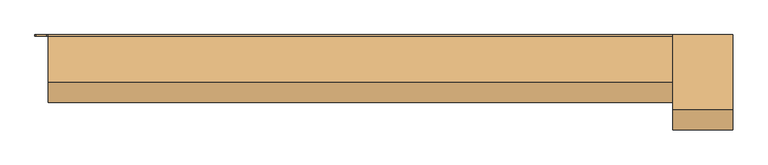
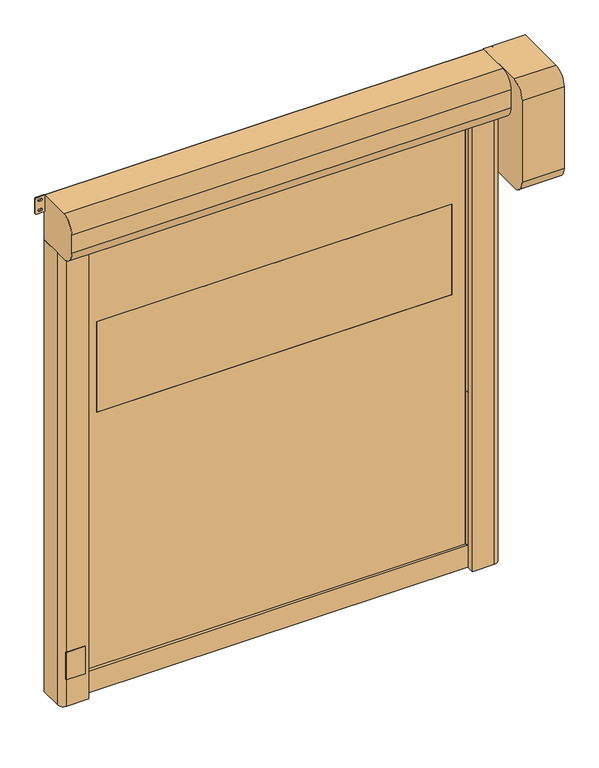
"""IFC4 building model written with IfcOpenShell, lengths in millimetres: door geometry, DO_WPB_Dynamicroll_BMP : Dynamicroll MS150."""

from ifc_helpers import new_model, si_unit, point, frame, frame_2d, origin, origin_with_axes, place, context, project, spatial, polyline, circle_curve, trimmed, segment, composite_curve, outline, extrude, source, transform, mapped, element, save


def door_8e53db6a(model_context):
    return source(origin(), model_context, "Body", "SweptSolid", [
        extrude(outline(composite_curve([segment(trimmed(circle_curve(frame_2d((1616.6666667, 1041.0)), 6.0), [point((1622.6666667, 1041.0))], [point((1610.6666667, 1041.0))], False, "CARTESIAN"), True, "CONTINUOUS"), segment(polyline([(1610.6666667, 1041.0), (1610.6666667, 1059.0)]), True, "CONTINUOUS"), segment(trimmed(circle_curve(frame_2d((1616.6666667, 1059.0)), 6.0), [point((1610.6666667, 1059.0))], [point((1622.6666667, 1059.0))], False, "CARTESIAN"), True, "CONTINUOUS"), segment(polyline([(1622.6666667, 1059.0), (1622.6666667, 1041.0)]), True, "CONTINUOUS")], self_intersect=False)), frame((0.0, -20.0, 0.0), z_axis=(0.0, 1.0, 0.0), x_axis=(0.0, 0.0, 1.0)), (0.0, 0.0, 1.0), 20.0),
        extrude(outline(composite_curve([segment(trimmed(circle_curve(frame_2d((883.3333333, 1041.0)), 6.0), [point((889.3333333, 1041.0))], [point((877.3333333, 1041.0))], False, "CARTESIAN"), True, "CONTINUOUS"), segment(polyline([(877.3333333, 1041.0), (877.3333333, 1059.0)]), True, "CONTINUOUS"), segment(trimmed(circle_curve(frame_2d((883.3333333, 1059.0)), 6.0), [point((877.3333333, 1059.0))], [point((889.3333333, 1059.0))], False, "CARTESIAN"), True, "CONTINUOUS"), segment(polyline([(889.3333333, 1059.0), (889.3333333, 1041.0)]), True, "CONTINUOUS")], self_intersect=False)), frame((0.0, -20.0, 0.0), z_axis=(0.0, 1.0, 0.0), x_axis=(0.0, 0.0, 1.0)), (0.0, 0.0, 1.0), 20.0),
        extrude(outline(composite_curve([segment(trimmed(circle_curve(frame_2d((2350.0, 1041.0)), 6.0), [point((2356.0, 1041.0))], [point((2344.0, 1041.0))], False, "CARTESIAN"), True, "CONTINUOUS"), segment(polyline([(2344.0, 1041.0), (2344.0, 1059.0)]), True, "CONTINUOUS"), segment(trimmed(circle_curve(frame_2d((2350.0, 1059.0)), 6.0), [point((2344.0, 1059.0))], [point((2356.0, 1059.0))], False, "CARTESIAN"), True, "CONTINUOUS"), segment(polyline([(2356.0, 1059.0), (2356.0, 1041.0)]), True, "CONTINUOUS")], self_intersect=False)), frame((0.0, -20.0, 0.0), z_axis=(0.0, 1.0, 0.0), x_axis=(0.0, 0.0, 1.0)), (0.0, 0.0, 1.0), 20.0),
        extrude(outline(composite_curve([segment(trimmed(circle_curve(frame_2d((150.0, 1041.0)), 6.0), [point((156.0, 1041.0))], [point((144.0, 1041.0))], False, "CARTESIAN"), True, "CONTINUOUS"), segment(polyline([(144.0, 1041.0), (144.0, 1059.0)]), True, "CONTINUOUS"), segment(trimmed(circle_curve(frame_2d((150.0, 1059.0)), 6.0), [point((144.0, 1059.0))], [point((156.0, 1059.0))], False, "CARTESIAN"), True, "CONTINUOUS"), segment(polyline([(156.0, 1059.0), (156.0, 1041.0)]), True, "CONTINUOUS")], self_intersect=False)), frame((0.0, -20.0, 0.0), z_axis=(0.0, 1.0, 0.0), x_axis=(0.0, 0.0, 1.0)), (0.0, 0.0, 1.0), 20.0),
        extrude(outline(composite_curve([segment(polyline([(1622.6666667, -1041.0), (1622.6666667, -1059.0)]), True, "CONTINUOUS"), segment(trimmed(circle_curve(frame_2d((1616.6666667, -1059.0)), 6.0), [point((1622.6666667, -1059.0))], [point((1610.6666667, -1059.0))], False, "CARTESIAN"), True, "CONTINUOUS"), segment(polyline([(1610.6666667, -1059.0), (1610.6666667, -1041.0)]), True, "CONTINUOUS"), segment(trimmed(circle_curve(frame_2d((1616.6666667, -1041.0)), 6.0), [point((1610.6666667, -1041.0))], [point((1622.6666667, -1041.0))], False, "CARTESIAN"), True, "CONTINUOUS")], self_intersect=False)), frame((0.0, -20.0, 0.0), z_axis=(0.0, 1.0, 0.0), x_axis=(0.0, 0.0, 1.0)), (0.0, 0.0, 1.0), 20.0),
        extrude(outline(composite_curve([segment(polyline([(889.3333333, -1041.0), (889.3333333, -1059.0)]), True, "CONTINUOUS"), segment(trimmed(circle_curve(frame_2d((883.3333333, -1059.0)), 6.0), [point((889.3333333, -1059.0))], [point((877.3333333, -1059.0))], False, "CARTESIAN"), True, "CONTINUOUS"), segment(polyline([(877.3333333, -1059.0), (877.3333333, -1041.0)]), True, "CONTINUOUS"), segment(trimmed(circle_curve(frame_2d((883.3333333, -1041.0)), 6.0), [point((877.3333333, -1041.0))], [point((889.3333333, -1041.0))], False, "CARTESIAN"), True, "CONTINUOUS")], self_intersect=False)), frame((0.0, -20.0, 0.0), z_axis=(0.0, 1.0, 0.0), x_axis=(0.0, 0.0, 1.0)), (0.0, 0.0, 1.0), 20.0),
        extrude(outline(composite_curve([segment(polyline([(2356.0, -1041.0), (2356.0, -1059.0)]), True, "CONTINUOUS"), segment(trimmed(circle_curve(frame_2d((2350.0, -1059.0)), 6.0), [point((2356.0, -1059.0))], [point((2344.0, -1059.0))], False, "CARTESIAN"), True, "CONTINUOUS"), segment(polyline([(2344.0, -1059.0), (2344.0, -1041.0)]), True, "CONTINUOUS"), segment(trimmed(circle_curve(frame_2d((2350.0, -1041.0)), 6.0), [point((2344.0, -1041.0))], [point((2356.0, -1041.0))], False, "CARTESIAN"), True, "CONTINUOUS")], self_intersect=False)), frame((0.0, -20.0, 0.0), z_axis=(0.0, 1.0, 0.0), x_axis=(0.0, 0.0, 1.0)), (0.0, 0.0, 1.0), 20.0),
        extrude(outline(composite_curve([segment(polyline([(156.0, -1041.0), (156.0, -1059.0)]), True, "CONTINUOUS"), segment(trimmed(circle_curve(frame_2d((150.0, -1059.0)), 6.0), [point((156.0, -1059.0))], [point((144.0, -1059.0))], False, "CARTESIAN"), True, "CONTINUOUS"), segment(polyline([(144.0, -1059.0), (144.0, -1041.0)]), True, "CONTINUOUS"), segment(trimmed(circle_curve(frame_2d((150.0, -1041.0)), 6.0), [point((144.0, -1041.0))], [point((156.0, -1041.0))], False, "CARTESIAN"), True, "CONTINUOUS")], self_intersect=False)), frame((0.0, -20.0, 0.0), z_axis=(0.0, 1.0, 0.0), x_axis=(0.0, 0.0, 1.0)), (0.0, 0.0, 1.0), 20.0),
        extrude(outline(composite_curve([segment(trimmed(circle_curve(frame_2d((1526.0, 929.0)), 1.0), [point((1525.0, 929.0))], [point((1526.0, 930.0))], False, "CARTESIAN"), True, "CONTINUOUS"), segment(polyline([(1526.0, 930.0), (2024.0, 930.0)]), True, "CONTINUOUS"), segment(trimmed(circle_curve(frame_2d((2024.0, 929.0)), 1.0), [point((2024.0, 930.0))], [point((2025.0, 929.0))], False, "CARTESIAN"), True, "CONTINUOUS"), segment(polyline([(2025.0, 929.0), (2025.0, -929.0)]), True, "CONTINUOUS"), segment(trimmed(circle_curve(frame_2d((2024.0, -929.0)), 1.0), [point((2025.0, -929.0))], [point((2024.0, -930.0))], False, "CARTESIAN"), True, "CONTINUOUS"), segment(polyline([(2024.0, -930.0), (1526.0, -930.0)]), True, "CONTINUOUS"), segment(trimmed(circle_curve(frame_2d((1526.0, -929.0)), 1.0), [point((1526.0, -930.0))], [point((1525.0, -929.0))], False, "CARTESIAN"), True, "CONTINUOUS"), segment(polyline([(1525.0, -929.0), (1525.0, 929.0)]), True, "CONTINUOUS")], self_intersect=False)), frame((0.0, -93.5, 0.0), z_axis=(0.0, 1.0, 0.0), x_axis=(0.0, 0.0, 1.0)), (0.0, 0.0, 1.0), 7.0),
        extrude(outline(polyline([(120.0, -1012.0), (120.0, 1012.0), (2625.0, 1012.0), (2625.0, -1012.0), (120.0, -1012.0)]), holes=[composite_curve([segment(trimmed(circle_curve(frame_2d((1526.0, 929.0)), 1.0), [point((1526.0, 930.0))], [point((1525.0, 929.0))], True, "CARTESIAN"), True, "CONTINUOUS"), segment(polyline([(1525.0, 929.0), (1525.0, -929.0)]), True, "CONTINUOUS"), segment(trimmed(circle_curve(frame_2d((1526.0, -929.0)), 1.0), [point((1525.0, -929.0))], [point((1526.0, -930.0))], True, "CARTESIAN"), True, "CONTINUOUS"), segment(polyline([(1526.0, -930.0), (2024.0, -930.0)]), True, "CONTINUOUS"), segment(trimmed(circle_curve(frame_2d((2024.0, -929.0)), 1.0), [point((2024.0, -930.0))], [point((2025.0, -929.0))], True, "CARTESIAN"), True, "CONTINUOUS"), segment(polyline([(2025.0, -929.0), (2025.0, 929.0)]), True, "CONTINUOUS"), segment(trimmed(circle_curve(frame_2d((2024.0, 929.0)), 1.0), [point((2025.0, 929.0))], [point((2024.0, 930.0))], True, "CARTESIAN"), True, "CONTINUOUS"), segment(polyline([(2024.0, 930.0), (1526.0, 930.0)]), True, "CONTINUOUS")], self_intersect=False)]), frame((0.0, -93.5, 0.0), z_axis=(0.0, 1.0, 0.0), x_axis=(0.0, 0.0, 1.0)), (0.0, 0.0, 1.0), 7.0),
        extrude(outline(polyline([(-1012.0, -72.0), (1012.0, -72.0), (1012.0, -108.0), (-1012.0, -108.0), (-1012.0, -72.0)])), origin_with_axes(), (0.0, 0.0, 1.0), 120.0),
        extrude(outline(composite_curve([segment(polyline([(0.0, 2750.0), (0.0, 2150.0), (-275.0, 2150.0)]), True, "CONTINUOUS"), segment(trimmed(circle_curve(frame_2d((-275.0, 2225.0)), 75.0), [point((-275.0, 2150.0))], [point((-350.0, 2225.0))], False, "CARTESIAN"), True, "CONTINUOUS"), segment(polyline([(-350.0, 2225.0), (-350.0, 2675.0)]), True, "CONTINUOUS"), segment(trimmed(circle_curve(frame_2d((-275.0, 2675.0)), 75.0), [point((-350.0, 2675.0))], [point((-275.0, 2750.0))], False, "CARTESIAN"), True, "CONTINUOUS"), segment(polyline([(-275.0, 2750.0), (0.0, 2750.0)]), True, "CONTINUOUS")], self_intersect=False)), frame((1150.0, 0.0, 0.0), z_axis=(1.0, 0.0, 0.0), x_axis=(0.0, 1.0, 0.0)), (0.0, 0.0, 1.0), 220.0),
        extrude(outline(composite_curve([segment(polyline([(-1150.0, 0.0), (-1015.0, 0.0), (-1015.0, -74.2857143), (-1035.0, -80.0), (-1000.0, -80.0), (-1000.0, -86.5), (-1020.0, -86.5), (-1020.0, -93.5), (-1000.0, -93.5), (-1000.0, -100.0), (-1035.0, -100.0), (-1035.0, -115.0), (-1005.0, -115.0), (-1005.0, -150.0), (-1120.0, -150.0)]), True, "CONTINUOUS"), segment(trimmed(circle_curve(frame_2d((-1120.0, -120.0)), 30.0), [point((-1120.0, -150.0))], [point((-1150.0, -120.0))], False, "CARTESIAN"), True, "CONTINUOUS"), segment(polyline([(-1150.0, -120.0), (-1150.0, 0.0)]), True, "CONTINUOUS")], self_intersect=False)), origin_with_axes(), (0.0, 0.0, 1.0), 2500.0),
        extrude(outline(composite_curve([segment(polyline([(1150.0, 0.0), (1150.0, -120.0)]), True, "CONTINUOUS"), segment(trimmed(circle_curve(frame_2d((1120.0, -120.0)), 30.0), [point((1150.0, -120.0))], [point((1120.0, -150.0))], False, "CARTESIAN"), True, "CONTINUOUS"), segment(polyline([(1120.0, -150.0), (1005.0, -150.0), (1005.0, -115.0), (1035.0, -115.0), (1035.0, -100.0), (1000.0, -100.0), (1000.0, -93.5), (1020.0, -93.5), (1020.0, -86.5), (1000.0, -86.5), (1000.0, -80.0), (1035.0, -80.0), (1015.0, -74.2857143), (1015.0, 0.0), (1150.0, 0.0)]), True, "CONTINUOUS")], self_intersect=False)), origin_with_axes(), (0.0, 0.0, 1.0), 2500.0),
        extrude(outline(composite_curve([segment(trimmed(circle_curve(frame_2d((2663.75, 1155.75)), 5.75), [point((2663.75, 1150.0))], [point((2658.0, 1155.75))], False, "CARTESIAN"), True, "CONTINUOUS"), segment(polyline([(2658.0, 1155.75), (2658.0, 1193.25)]), True, "CONTINUOUS"), segment(trimmed(circle_curve(frame_2d((2663.75, 1193.25)), 5.75), [point((2658.0, 1193.25))], [point((2663.75, 1199.0))], False, "CARTESIAN"), True, "CONTINUOUS"), segment(polyline([(2663.75, 1199.0), (2744.25, 1199.0)]), True, "CONTINUOUS"), segment(trimmed(circle_curve(frame_2d((2744.25, 1193.25)), 5.75), [point((2744.25, 1199.0))], [point((2750.0, 1193.25))], False, "CARTESIAN"), True, "CONTINUOUS"), segment(polyline([(2750.0, 1193.25), (2750.0, 1155.75)]), True, "CONTINUOUS"), segment(trimmed(circle_curve(frame_2d((2744.25, 1155.75)), 5.75), [point((2750.0, 1155.75))], [point((2744.25, 1150.0))], False, "CARTESIAN"), True, "CONTINUOUS"), segment(polyline([(2744.25, 1150.0), (2663.75, 1150.0)]), True, "CONTINUOUS")], self_intersect=False), holes=[composite_curve([segment(trimmed(circle_curve(frame_2d((2731.5, 1178.75)), 5.75), [point((2737.25, 1178.75))], [point((2725.75, 1178.75))], True, "CARTESIAN"), True, "CONTINUOUS"), segment(polyline([(2725.75, 1178.75), (2725.75, 1170.25)]), True, "CONTINUOUS"), segment(trimmed(circle_curve(frame_2d((2731.5, 1170.25)), 5.75), [point((2725.75, 1170.25))], [point((2737.25, 1170.25))], True, "CARTESIAN"), True, "CONTINUOUS"), segment(polyline([(2737.25, 1170.25), (2737.25, 1178.75)]), True, "CONTINUOUS")], self_intersect=False), composite_curve([segment(trimmed(circle_curve(frame_2d((2676.5, 1178.75)), 5.75), [point((2682.25, 1178.75))], [point((2670.75, 1178.75))], True, "CARTESIAN"), True, "CONTINUOUS"), segment(polyline([(2670.75, 1178.75), (2670.75, 1170.25)]), True, "CONTINUOUS"), segment(trimmed(circle_curve(frame_2d((2676.5, 1170.25)), 5.75), [point((2670.75, 1170.25))], [point((2682.25, 1170.25))], True, "CARTESIAN"), True, "CONTINUOUS"), segment(polyline([(2682.25, 1170.25), (2682.25, 1178.75)]), True, "CONTINUOUS")], self_intersect=False)]), frame((0.0, -5.0, 0.0), z_axis=(0.0, 1.0, 0.0), x_axis=(0.0, 0.0, 1.0)), (0.0, 0.0, 1.0), 5.0),
        extrude(outline(composite_curve([segment(trimmed(circle_curve(frame_2d((2663.75, -1193.25)), 5.75), [point((2663.75, -1199.0))], [point((2658.0, -1193.25))], False, "CARTESIAN"), True, "CONTINUOUS"), segment(polyline([(2658.0, -1193.25), (2658.0, -1155.75)]), True, "CONTINUOUS"), segment(trimmed(circle_curve(frame_2d((2663.75, -1155.75)), 5.75), [point((2658.0, -1155.75))], [point((2663.75, -1150.0))], False, "CARTESIAN"), True, "CONTINUOUS"), segment(polyline([(2663.75, -1150.0), (2744.25, -1150.0)]), True, "CONTINUOUS"), segment(trimmed(circle_curve(frame_2d((2744.25, -1155.75)), 5.75), [point((2744.25, -1150.0))], [point((2750.0, -1155.75))], False, "CARTESIAN"), True, "CONTINUOUS"), segment(polyline([(2750.0, -1155.75), (2750.0, -1193.25)]), True, "CONTINUOUS"), segment(trimmed(circle_curve(frame_2d((2744.25, -1193.25)), 5.75), [point((2750.0, -1193.25))], [point((2744.25, -1199.0))], False, "CARTESIAN"), True, "CONTINUOUS"), segment(polyline([(2744.25, -1199.0), (2663.75, -1199.0)]), True, "CONTINUOUS")], self_intersect=False), holes=[composite_curve([segment(trimmed(circle_curve(frame_2d((2731.5, -1170.25)), 5.75), [point((2737.25, -1170.25))], [point((2725.75, -1170.25))], True, "CARTESIAN"), True, "CONTINUOUS"), segment(polyline([(2725.75, -1170.25), (2725.75, -1178.75)]), True, "CONTINUOUS"), segment(trimmed(circle_curve(frame_2d((2731.5, -1178.75)), 5.75), [point((2725.75, -1178.75))], [point((2737.25, -1178.75))], True, "CARTESIAN"), True, "CONTINUOUS"), segment(polyline([(2737.25, -1178.75), (2737.25, -1170.25)]), True, "CONTINUOUS")], self_intersect=False), composite_curve([segment(trimmed(circle_curve(frame_2d((2676.5, -1170.25)), 5.75), [point((2682.25, -1170.25))], [point((2670.75, -1170.25))], True, "CARTESIAN"), True, "CONTINUOUS"), segment(polyline([(2670.75, -1170.25), (2670.75, -1178.75)]), True, "CONTINUOUS"), segment(trimmed(circle_curve(frame_2d((2676.5, -1178.75)), 5.75), [point((2670.75, -1178.75))], [point((2682.25, -1178.75))], True, "CARTESIAN"), True, "CONTINUOUS"), segment(polyline([(2682.25, -1178.75), (2682.25, -1170.25)]), True, "CONTINUOUS")], self_intersect=False)]), frame((0.0, -5.0, 0.0), z_axis=(0.0, 1.0, 0.0), x_axis=(0.0, 0.0, 1.0)), (0.0, 0.0, 1.0), 5.0),
        extrude(outline(polyline([(-1125.0, -150.0), (-1025.0, -150.0), (-1025.0, -155.0), (-1125.0, -155.0), (-1125.0, -150.0)])), frame((0.0, 0.0, 150.0), z_axis=(0.0, 0.0, 1.0), x_axis=(1.0, 0.0, 0.0)), (0.0, 0.0, 1.0), 150.0),
        extrude(outline(composite_curve([segment(trimmed(circle_curve(frame_2d((-5.0, 2505.0)), 5.0), [point((0.0, 2505.0))], [point((-5.0, 2500.0))], False, "CARTESIAN"), True, "CONTINUOUS"), segment(polyline([(-5.0, 2500.0), (-175.0, 2500.0)]), True, "CONTINUOUS"), segment(trimmed(circle_curve(frame_2d((-175.0, 2575.0)), 75.0), [point((-175.0, 2500.0))], [point((-250.0, 2575.0))], False, "CARTESIAN"), True, "CONTINUOUS"), segment(polyline([(-250.0, 2575.0), (-250.0, 2675.0)]), True, "CONTINUOUS"), segment(trimmed(circle_curve(frame_2d((-175.0, 2675.0)), 75.0), [point((-250.0, 2675.0))], [point((-175.0, 2750.0))], False, "CARTESIAN"), True, "CONTINUOUS"), segment(polyline([(-175.0, 2750.0), (-5.0, 2750.0)]), True, "CONTINUOUS"), segment(trimmed(circle_curve(frame_2d((-5.0, 2745.0)), 5.0), [point((-5.0, 2750.0))], [point((0.0, 2745.0))], False, "CARTESIAN"), True, "CONTINUOUS"), segment(polyline([(0.0, 2745.0), (0.0, 2505.0)]), True, "CONTINUOUS")], self_intersect=False)), frame((-1150.0, 0.0, 0.0), z_axis=(1.0, 0.0, 0.0), x_axis=(0.0, 1.0, 0.0)), (0.0, 0.0, 1.0), 2300.0),
    ])


if __name__ == "__main__":
    model = new_model("IFC4")
    model_context = context("Model", 3, world=origin())
    ifc_project = project(units=[si_unit("LENGTHUNIT", "METRE", prefix="MILLI")], contexts=[model_context])
    site = spatial("IfcSite", under=ifc_project)
    building = spatial("IfcBuilding", under=site)
    placement = place(None, origin())
    door_shape = door_8e53db6a(model_context)
    element("IfcDoor", 1, ObjectType="DO_WPB_Dynamicroll_BMP : Dynamicroll MS150", at=placement, inside=building, context=model_context, shape_type="MappedRepresentation", body=[
        mapped(door_shape, transform((0.0, 0.0, 0.0), x_axis=(1.0, 0.0, 0.0), y_axis=(0.0, 1.0, 0.0), z_axis=(0.0, 0.0, 1.0))),
    ])
    save(model, "model.ifc")
